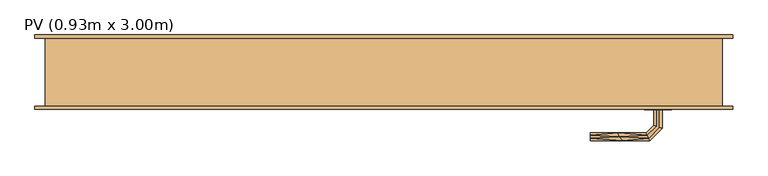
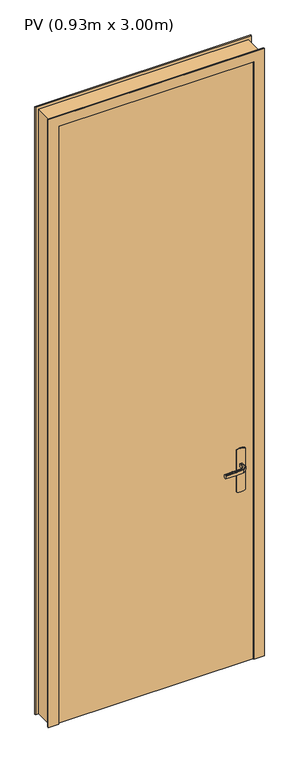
"""IFC4 building model written with IfcOpenShell, lengths in millimetres: door geometry, PV (0.93m x 3.00m)."""

from ifc_helpers import new_model, si_unit, frame, origin, origin_with_axes, place, context, project, spatial, polyline, outline, extrude, faceted_brep, source, transform, mapped, element, save


def pv_0_93m_x_3_00m_af736ae7(model_context):
    return source(origin(), model_context, "Body", "SolidModel", [
        extrude(outline(polyline([(1035.0, 40.0), (1035.0, 0.0), (105.0, 0.0), (105.0, 40.0), (1035.0, 40.0)])), origin_with_axes(), (0.0, 0.0, 1.0), 3010.0),
        faceted_brep([(972.9747013, 45.0, 992.2195592), (977.0252987, 45.0, 992.2195592), (981.0, 45.0, 993.0), (981.0, 45.0, 1007.0), (977.0252987, 45.0, 1007.7804408), (972.9747013, 45.0, 1007.7804408), (969.0, 45.0, 1007.0), (969.0, 45.0, 993.0), (969.0, 67.4852045, 1007.0), (969.0, 67.4852045, 993.0), (972.9747013, 69.1315797, 1007.7804408), (977.0252987, 70.8093921, 1007.7804408), (960.8389062, 86.9957845, 1007.7804408), (959.1610938, 82.9451872, 1007.7804408), (981.0, 72.4557673, 1007.0), (981.0, 72.4557673, 993.0), (977.0252987, 70.8093921, 992.2195592), (972.9747013, 69.1315797, 992.2195592), (959.1610938, 82.9451872, 992.2195592), (960.8389062, 86.9957845, 992.2195592), (957.5147186, 78.9704859, 1007.0), (957.5147186, 78.9704859, 993.0), (962.4852814, 90.9704859, 1007.0), (962.4852814, 90.9704859, 993.0), (874.9542163, 82.9451872, 1007.7804408), (874.9542163, 86.9957845, 1007.7804408), (874.9542163, 90.9704859, 1007.0), (874.9542163, 90.9704859, 993.0), (874.9542163, 86.9957845, 992.2195592), (874.9542163, 82.9451872, 992.2195592), (874.9542163, 78.9704859, 993.0), (874.9542163, 78.9704859, 1007.0), (916.2344675, 78.9704859, 1007.0), (916.2344794, 78.9704859, 993.0), (917.0576551, 84.9704859, 1007.8786868), (922.5547942, 90.9704859, 1007.0), (922.5547957, 90.9704859, 993.0), (917.0576549, 84.9704858, 992.1213132)], [[[0, 1, 2, 3, 4, 5, 6, 7]], [[8, 9, 7, 6]], [[5, 10, 8, 6]], [[5, 4, 11, 12, 13, 10]], [[3, 14, 11, 4]], [[14, 3, 2, 15]], [[2, 1, 16, 15]], [[1, 0, 17, 18, 19, 16]], [[0, 7, 9, 17]], [[20, 21, 9, 8]], [[8, 10, 13, 20]], [[14, 22, 12, 11]], [[23, 22, 14, 15]], [[15, 16, 19, 23]], [[17, 9, 21, 18]], [[24, 25, 26, 27, 28, 29, 30, 31]], [[21, 20, 32, 31, 30, 33]], [[34, 24, 32]], [[25, 34, 35]], [[13, 32, 20]], [[24, 31, 32]], [[25, 35, 26]], [[35, 12, 22]], [[34, 12, 35]], [[34, 13, 12]], [[34, 32, 13]], [[24, 34, 25]], [[22, 23, 36, 27, 26, 35]], [[37, 28, 36]], [[36, 28, 27]], [[36, 23, 19]], [[18, 33, 37]], [[33, 18, 21]], [[30, 29, 33]], [[37, 29, 28]], [[37, 33, 29]], [[37, 36, 19]], [[18, 37, 19]]]),
        extrude(outline(polyline([(870.0, 995.0), (1080.0, 995.0), (1083.9960169, 985.3527618), (1085.3589838, 975.0), (1083.9960169, 964.6472382), (1080.0, 955.0), (870.0, 955.0), (866.0039831, 964.6472382), (864.6410162, 975.0), (866.0039831, 985.3527618), (870.0, 995.0)])), frame((0.0, 40.0, 0.0), z_axis=(0.0, 1.0, 0.0), x_axis=(0.0, 0.0, 1.0)), (0.0, 0.0, 1.0), 5.0),
        faceted_brep([(972.9747013, -5.0, 1007.7804408), (977.0252987, -5.0, 1007.7804408), (981.0, -5.0, 1007.0), (981.0, -5.0, 993.0), (977.0252987, -5.0, 992.2195592), (972.9747013, -5.0, 992.2195592), (969.0, -5.0, 993.0), (969.0, -5.0, 1007.0), (977.0252987, -31.0045755, 1007.7804408), (981.0, -32.6509507, 1007.0), (972.9747013, -29.3267632, 1007.7804408), (959.2986025, -43.002862, 1007.7804408), (960.9764148, -47.0534593, 1007.7804408), (969.0, -27.680388, 1007.0), (969.0, -27.680388, 993.0), (972.9747013, -29.3267632, 992.2195592), (977.0252987, -31.0045755, 992.2195592), (960.9764148, -47.0534593, 992.2195592), (959.2986025, -43.002862, 992.2195592), (981.0, -32.6509507, 993.0), (962.62279, -51.0281607, 1007.0), (957.6522273, -39.0281607, 1007.0), (957.6522273, -39.0281607, 993.0), (962.62279, -51.0281607, 993.0), (874.9813594, -51.0281607, 1007.0), (874.9813594, -47.0534593, 1007.7804408), (874.9813594, -43.002862, 1007.7804408), (874.9813594, -39.0281607, 1007.0), (874.9813594, -39.0281607, 993.0), (874.9813594, -43.002862, 992.2195592), (874.9813594, -47.0534593, 992.2195592), (874.9813594, -51.0281607, 993.0), (917.1399809, -45.0281607, 1007.8786868), (922.6923028, -51.0281607, 1007.0), (916.3167933, -39.0281607, 1007.0), (916.3167933, -39.0281607, 993.0), (917.1399811, -45.0281608, 992.1213132), (922.6923104, -51.0281607, 993.0)], [[[0, 1, 2, 3, 4, 5, 6, 7]], [[2, 1, 8, 9]], [[1, 0, 10, 11, 12, 8]], [[0, 7, 13, 10]], [[14, 13, 7, 6]], [[5, 15, 14, 6]], [[5, 4, 16, 17, 18, 15]], [[3, 19, 16, 4]], [[9, 19, 3, 2]], [[9, 8, 12, 20]], [[10, 13, 21, 11]], [[22, 21, 13, 14]], [[14, 15, 18, 22]], [[16, 19, 23, 17]], [[20, 23, 19, 9]], [[24, 25, 26, 27, 28, 29, 30, 31]], [[32, 25, 33]], [[33, 25, 24]], [[33, 20, 12]], [[11, 34, 32]], [[34, 11, 21]], [[27, 26, 34]], [[32, 26, 25]], [[32, 34, 26]], [[32, 33, 12]], [[11, 32, 12]], [[21, 22, 35, 28, 27, 34]], [[36, 29, 35]], [[30, 36, 37]], [[18, 35, 22]], [[29, 28, 35]], [[30, 37, 31]], [[37, 17, 23]], [[36, 17, 37]], [[36, 18, 17]], [[36, 35, 18]], [[29, 36, 30]], [[23, 20, 33, 24, 31, 37]]]),
        extrude(outline(polyline([(870.0, 995.0), (1080.0, 995.0), (1083.9960169, 985.3527618), (1085.3589838, 975.0), (1083.9960169, 964.6472382), (1080.0, 955.0), (870.0, 955.0), (866.0039831, 964.6472382), (864.6410162, 975.0), (866.0039831, 985.3527618), (870.0, 995.0)])), frame((0.0, -5.0, 0.0), z_axis=(0.0, 1.0, 0.0), x_axis=(0.0, 0.0, 1.0)), (0.0, 0.0, 1.0), 5.0),
        faceted_brep([(1070.0, 100.0, 0.0), (1070.0, 0.0, 0.0), (1085.0, 0.0, 0.0), (1085.0, -5.0, 0.0), (1035.0, -5.0, 0.0), (1035.0, 40.0, 0.0), (1020.0, 40.0, 0.0), (1020.0, 105.0, 0.0), (1085.0, 105.0, 0.0), (1085.0, 100.0, 0.0), (1085.0, 100.0, 3060.0), (55.0, 100.0, 3060.0), (55.0, 100.0, 0.0), (70.0, 100.0, 0.0), (70.0, 100.0, 3045.0), (1070.0, 100.0, 3045.0), (1085.0, 105.0, 3060.0), (1020.0, 105.0, 2995.0), (120.0, 105.0, 2995.0), (120.0, 105.0, 0.0), (55.0, 105.0, 0.0), (55.0, 105.0, 3060.0), (1020.0, 40.0, 2995.0), (1035.0, 40.0, 3010.0), (105.0, 40.0, 3010.0), (105.0, 40.0, 0.0), (120.0, 40.0, 0.0), (120.0, 40.0, 2995.0), (1035.0, -5.0, 3010.0), (1085.0, -5.0, 3060.0), (55.0, -5.0, 3060.0), (55.0, -5.0, 0.0), (105.0, -5.0, 0.0), (105.0, -5.0, 3010.0), (1085.0, 0.0, 3060.0), (1070.0, 0.0, 3045.0), (70.0, 0.0, 3045.0), (70.0, 0.0, 0.0), (55.0, 0.0, 0.0), (55.0, 0.0, 3060.0)], [[[0, 1, 2, 3, 4, 5, 6, 7, 8, 9]], [[9, 10, 11, 12, 13, 14, 15, 0]], [[8, 16, 10, 9]], [[7, 17, 18, 19, 20, 21, 16, 8]], [[7, 6, 22, 17]], [[5, 23, 24, 25, 26, 27, 22, 6]], [[5, 4, 28, 23]], [[3, 29, 30, 31, 32, 33, 28, 4]], [[2, 34, 29, 3]], [[1, 35, 36, 37, 38, 39, 34, 2]], [[0, 15, 35, 1]], [[14, 13, 37, 36]], [[13, 12, 20, 19, 26, 25, 32, 31, 38, 37]], [[21, 20, 12, 11]], [[27, 26, 19, 18]], [[33, 32, 25, 24]], [[39, 38, 31, 30]], [[15, 14, 36, 35]], [[16, 21, 11, 10]], [[22, 27, 18, 17]], [[28, 33, 24, 23]], [[34, 39, 30, 29]]]),
    ])


if __name__ == "__main__":
    model = new_model("IFC4")
    model_context = context("Model", 3, world=origin())
    ifc_project = project(units=[si_unit("LENGTHUNIT", "METRE", prefix="MILLI")], contexts=[model_context])
    site = spatial("IfcSite", under=ifc_project)
    building = spatial("IfcBuilding", under=site)
    placement = place(None, origin())
    pv_0_93m_x_3_00m_shape = pv_0_93m_x_3_00m_af736ae7(model_context)
    element("IfcDoor", 1, ObjectType="PV (0.93m x 3.00m)", at=placement, inside=building, context=model_context, shape_type="MappedRepresentation", body=[
        mapped(pv_0_93m_x_3_00m_shape, transform((0.0, 0.0, 0.0), x_axis=(1.0, 0.0, 0.0), y_axis=(0.0, 1.0, 0.0), z_axis=(0.0, 0.0, 1.0))),
    ])
    save(model, "model.ifc")
